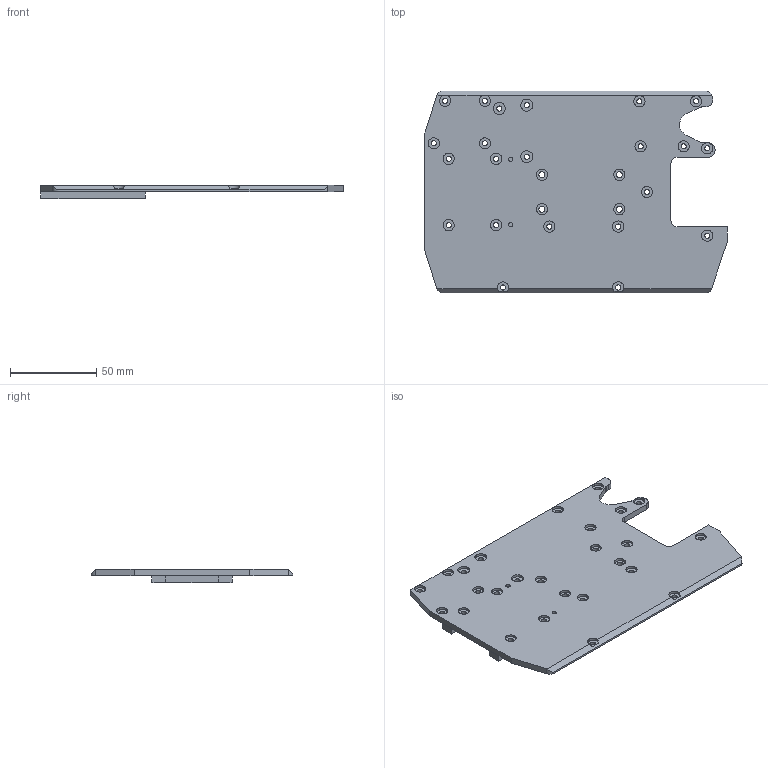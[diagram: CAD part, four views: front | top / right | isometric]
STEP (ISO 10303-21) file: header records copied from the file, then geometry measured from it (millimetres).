
FILE_DESCRIPTION (( 'STEP AP214' ), '1' );
FILE_NAME ('4õ4 Äíèùå 12.STEP', '2019-03-23T06:56:38', ( '' ), ( '' ), 'SwSTEP 2.0', 'SolidWorks 2018', '' );
FILE_SCHEMA (( 'AUTOMOTIVE_DESIGN' ));
Length unit declared in the file: millimetre
Products named in the file (1): 4õ4 Äíèùå 12
Bounding box: 175.99 x 117.4 x 7.6 mm (x, y, z)
Volume: 64954.3 mm3; surface area: 41334.6 mm2
Topology: 1 solids, 1 shells, 195 faces, 498 edges, 332 vertices
Faces by surface type: cylinder 126, plane 69
Entity records: 6164 total; most frequent: DIRECTION 1134, CARTESIAN_POINT 1056, ORIENTED_EDGE 996, EDGE_CURVE 498, AXIS2_PLACEMENT_3D 450, VERTEX_POINT 332, EDGE_LOOP 274, CIRCLE 254
